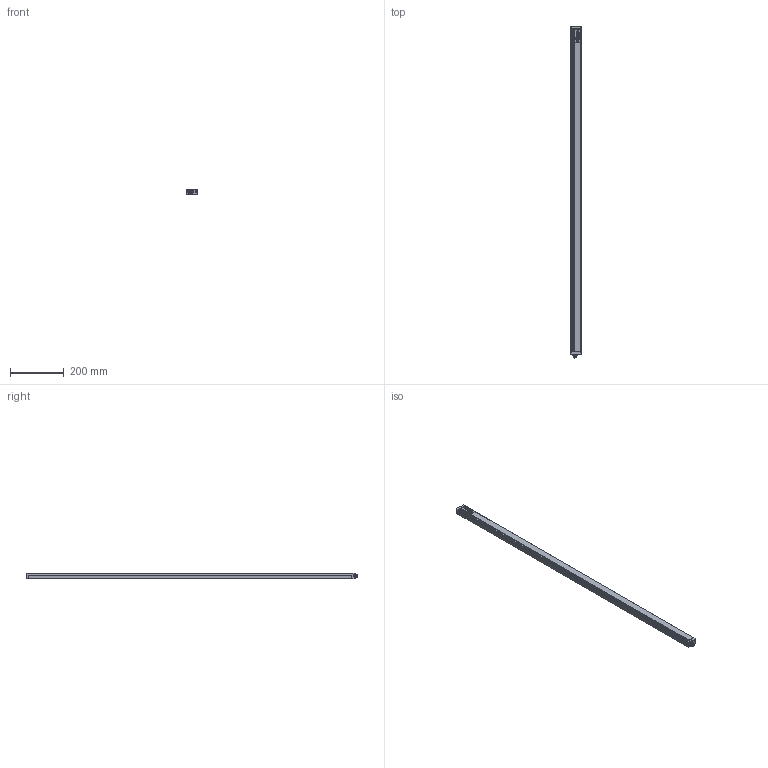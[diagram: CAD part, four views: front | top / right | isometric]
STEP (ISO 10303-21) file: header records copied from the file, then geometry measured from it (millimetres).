
FILE_DESCRIPTION(/* description */ (''),/* implementation_level */ '2;1');
FILE_NAME(/* name */ 'C:\Users\andre\SynologyDrive\Optoscan\Libreria Componenti\00 - Barriere\Barriera sorgente\Argo_1200_TX.stp',/* time_stamp */ '2021-04-22T10:22:48+02:00',/* author */ ('andre'),/* organization */ (''),/* preprocessor_version */ 'ST-DEVELOPER v18',/* originating_system */ 'Autodesk Inventor 2020',/* authorisation */ '');
FILE_SCHEMA (('AUTOMOTIVE_DESIGN { 1 0 10303 214 3 1 1 }'));
Length unit declared in the file: millimetre
Products named in the file (1): Argo_1200_TX
Bounding box: 40.5 x 1233.3 x 20.75 mm (x, y, z)
Volume: 245043.2 mm3; surface area: 320246.2 mm2
Topology: 1 solids, 1 shells, 696 faces, 1911 edges, 1225 vertices
Faces by surface type: plane 321, cylinder 195, bspline 94, torus 72, cone 8, sphere 6
Full cylindrical faces by diameter (mm): 1 x4, 2.459 x4, 2.5 x4, 3 x4, 3.5 x4, 5.5 x4, 8 x1, 10.5 x2, 11.75 x9, 15.7 x1, 17.5 x1
Entity records: 30770 total; most frequent: CARTESIAN_POINT 12670, ORIENTED_EDGE 3806, DIRECTION 3415, EDGE_CURVE 1903, VERTEX_POINT 1225, AXIS2_PLACEMENT_3D 1193, LINE 1029, VECTOR 1029
